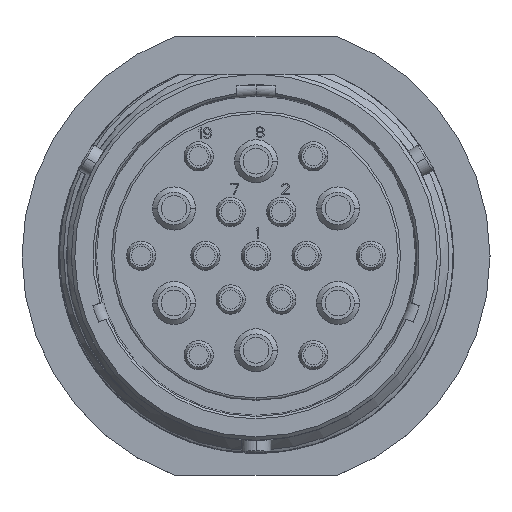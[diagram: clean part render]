
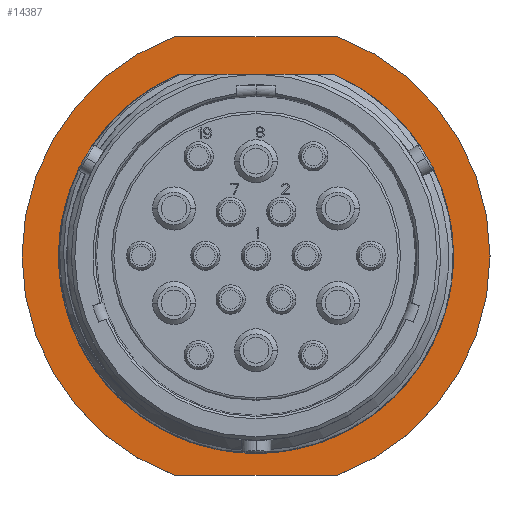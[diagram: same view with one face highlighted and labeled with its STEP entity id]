
A CAD part, top view. The second image highlights one B-rep face of the part: STEP entity #14387.
In plain terms, the highlighted planar face has unit normal (0, 0, 1).
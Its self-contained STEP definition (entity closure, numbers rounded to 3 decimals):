
#2340=CARTESIAN_POINT('',(0.,0.,-26.162));
#2341=DIRECTION('',(0.,0.,-1.));
#2342=DIRECTION('',(0.397,0.918,0.));
#2343=AXIS2_PLACEMENT_3D('',#2340,#2341,#2342);
#2349=DIRECTION('',(-1.,0.,0.));
#2350=VECTOR('',#2349,17.678);
#2351=CARTESIAN_POINT('',(8.839,-23.813,-26.162));
#2352=LINE('',#2351,#2350);
#2353=CARTESIAN_POINT('',(0.,0.,-26.162));
#2354=DIRECTION('',(0.,0.,1.));
#2355=DIRECTION('',(-0.348,0.938,0.));
#2356=AXIS2_PLACEMENT_3D('',#2353,#2354,#2355);
#2358=DIRECTION('',(1.,0.,0.));
#2359=VECTOR('',#2358,17.678);
#2360=CARTESIAN_POINT('',(-8.839,23.813,-26.162));
#2361=LINE('',#2360,#2359);
#2362=CARTESIAN_POINT('',(0.,0.,-26.162));
#2363=DIRECTION('',(0.,0.,-1.));
#2364=DIRECTION('',(0.348,0.938,0.));
#2365=AXIS2_PLACEMENT_3D('',#2362,#2363,#2364);
#2367=DIRECTION('',(1.,0.,0.));
#2368=VECTOR('',#2367,17.035);
#2369=CARTESIAN_POINT('',(-8.518,19.666,-26.162));
#2370=LINE('',#2369,#2368);
#7161=CARTESIAN_POINT('',(-8.839,-23.813,-26.162));
#7162=VERTEX_POINT('',#7161);
#7163=CARTESIAN_POINT('',(-8.839,23.813,-26.162));
#7164=VERTEX_POINT('',#7163);
#7165=CARTESIAN_POINT('',(8.839,-23.813,-26.162));
#7166=VERTEX_POINT('',#7165);
#7167=CARTESIAN_POINT('',(8.839,23.813,-26.162));
#7168=VERTEX_POINT('',#7167);
#7924=CARTESIAN_POINT('',(-8.518,19.666,-26.162));
#7926=VERTEX_POINT('',#7924);
#7970=CARTESIAN_POINT('',(8.518,19.666,-26.162));
#7971=VERTEX_POINT('',#7970);
#14368=CARTESIAN_POINT('',(0.,0.,-26.162));
#14369=DIRECTION('',(0.,0.,1.));
#14370=DIRECTION('',(0.,1.,0.));
#14371=AXIS2_PLACEMENT_3D('',#14368,#14369,#14370);
#14372=PLANE('',#14371);
#14374=ORIENTED_EDGE('',*,*,#14373,.T.);
#14376=ORIENTED_EDGE('',*,*,#14375,.F.);
#14378=ORIENTED_EDGE('',*,*,#14377,.T.);
#14380=ORIENTED_EDGE('',*,*,#14379,.T.);
#14381=EDGE_LOOP('',(#14374,#14376,#14378,#14380));
#14382=FACE_OUTER_BOUND('',#14381,.F.);
#14383=ORIENTED_EDGE('',*,*,#14362,.F.);
#14384=ORIENTED_EDGE('',*,*,#9244,.F.);
#14385=EDGE_LOOP('',(#14383,#14384));
#14386=FACE_BOUND('',#14385,.F.);
#14387=ADVANCED_FACE('',(#14382,#14386),#14372,.T.);
#2344=CIRCLE('',#2343,21.431);
#2357=CIRCLE('',#2356,25.4);
#2366=CIRCLE('',#2365,25.4);
#9244=EDGE_CURVE('',#7926,#7971,#2370,.T.);
#14362=EDGE_CURVE('',#7971,#7926,#2344,.T.);
#14373=EDGE_CURVE('',#7166,#7162,#2352,.T.);
#14375=EDGE_CURVE('',#7164,#7162,#2357,.T.);
#14377=EDGE_CURVE('',#7164,#7168,#2361,.T.);
#14379=EDGE_CURVE('',#7168,#7166,#2366,.T.);
